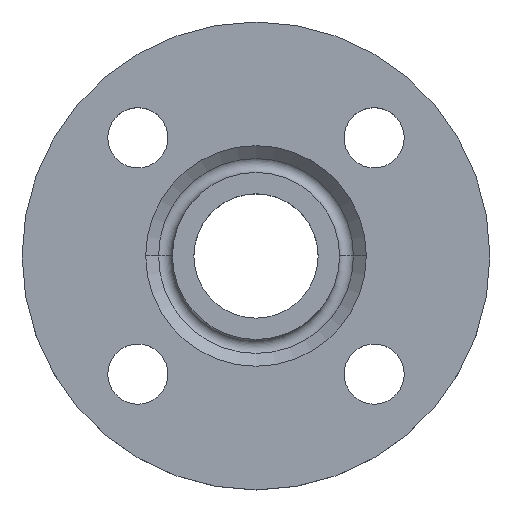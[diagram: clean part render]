
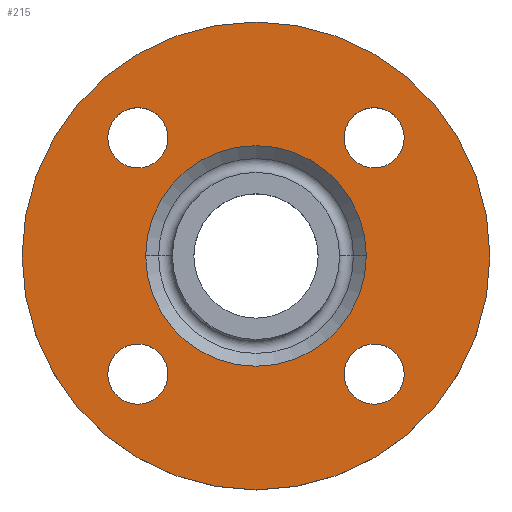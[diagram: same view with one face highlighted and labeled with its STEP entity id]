
A CAD part, top view. The second image highlights one B-rep face of the part: STEP entity #215.
In plain terms, the highlighted planar face has unit normal (0, 0, 1).
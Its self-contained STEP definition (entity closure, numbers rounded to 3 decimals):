
#11 = DIRECTION ( 'NONE',  ( 1., 0., 0. ) ) ;
#12 = CARTESIAN_POINT ( 'NONE',  ( 0., 0., -2. ) ) ;
#13 = DIRECTION ( 'NONE',  ( 0., 0., -1. ) ) ;
#23 = CARTESIAN_POINT ( 'NONE',  ( 70., 0., -2. ) ) ;
#32 = ORIENTED_EDGE ( 'NONE', *, *, #399, .T. ) ;
#34 = CARTESIAN_POINT ( 'NONE',  ( -35.355, 35.355, -2. ) ) ;
#37 = ORIENTED_EDGE ( 'NONE', *, *, #220, .T. ) ;
#47 = DIRECTION ( 'NONE',  ( 1., 0., 0. ) ) ;
#51 = VERTEX_POINT ( 'NONE', #314 ) ;
#63 = ORIENTED_EDGE ( 'NONE', *, *, #201, .F. ) ;
#68 = VERTEX_POINT ( 'NONE', #595 ) ;
#83 = EDGE_CURVE ( 'NONE', #200, #774, #95, .T. ) ;
#95 = CIRCLE ( 'NONE', #113, 9. ) ;
#101 = FACE_BOUND ( 'NONE', #674, .T. ) ;
#113 = AXIS2_PLACEMENT_3D ( 'NONE', #295, #571, #848 ) ;
#121 = CARTESIAN_POINT ( 'NONE',  ( 0., 0., -2. ) ) ;
#130 = AXIS2_PLACEMENT_3D ( 'NONE', #241, #516, #789 ) ;
#131 = CIRCLE ( 'NONE', #636, 70. ) ;
#135 = AXIS2_PLACEMENT_3D ( 'NONE', #172, #452, #724 ) ;
#172 = CARTESIAN_POINT ( 'NONE',  ( 0., 0., -2. ) ) ;
#179 = FACE_BOUND ( 'NONE', #630, .T. ) ;
#183 = EDGE_CURVE ( 'NONE', #729, #673, #845, .T. ) ;
#186 = DIRECTION ( 'NONE',  ( 0., 0., -1. ) ) ;
#197 = CARTESIAN_POINT ( 'NONE',  ( 35.355, -35.355, -2. ) ) ;
#200 = VERTEX_POINT ( 'NONE', #792 ) ;
#201 = EDGE_CURVE ( 'NONE', #423, #68, #827, .T. ) ;
#207 = CARTESIAN_POINT ( 'NONE',  ( -33., 0., -2. ) ) ;
#215 = ADVANCED_FACE ( 'NONE', ( #799, #179, #459, #730, #101, #393 ), #662, .T. ) ;
#220 = EDGE_CURVE ( 'NONE', #276, #51, #804, .T. ) ;
#231 = CIRCLE ( 'NONE', #741, 33. ) ;
#241 = CARTESIAN_POINT ( 'NONE',  ( 0., 0., -2. ) ) ;
#244 = CARTESIAN_POINT ( 'NONE',  ( 35.355, 35.355, -2. ) ) ;
#250 = CIRCLE ( 'NONE', #759, 9. ) ;
#257 = AXIS2_PLACEMENT_3D ( 'NONE', #23, #325, #600 ) ;
#276 = VERTEX_POINT ( 'NONE', #337 ) ;
#288 = ORIENTED_EDGE ( 'NONE', *, *, #537, .T. ) ;
#295 = CARTESIAN_POINT ( 'NONE',  ( 35.355, -35.355, -2. ) ) ;
#296 = CARTESIAN_POINT ( 'NONE',  ( 26.355, 35.355, -2. ) ) ;
#305 = AXIS2_PLACEMENT_3D ( 'NONE', #415, #682, #47 ) ;
#313 = DIRECTION ( 'NONE',  ( 0., 0., -1. ) ) ;
#314 = CARTESIAN_POINT ( 'NONE',  ( -26.355, 35.355, -2. ) ) ;
#315 = DIRECTION ( 'NONE',  ( 1., 0., 0. ) ) ;
#319 = CARTESIAN_POINT ( 'NONE',  ( -26.355, -35.355, -2. ) ) ;
#325 = DIRECTION ( 'NONE',  ( 0., 0., 1. ) ) ;
#330 = VERTEX_POINT ( 'NONE', #207 ) ;
#332 = DIRECTION ( 'NONE',  ( 0., 0., -1. ) ) ;
#337 = CARTESIAN_POINT ( 'NONE',  ( -44.355, 35.355, -2. ) ) ;
#341 = EDGE_LOOP ( 'NONE', ( #63, #925 ) ) ;
#351 = ORIENTED_EDGE ( 'NONE', *, *, #183, .T. ) ;
#363 = AXIS2_PLACEMENT_3D ( 'NONE', #653, #13, #315 ) ;
#376 = CARTESIAN_POINT ( 'NONE',  ( -44.355, -35.355, -2. ) ) ;
#382 = CARTESIAN_POINT ( 'NONE',  ( -35.355, -35.355, -2. ) ) ;
#393 = FACE_OUTER_BOUND ( 'NONE', #341, .T. ) ;
#399 = EDGE_CURVE ( 'NONE', #330, #679, #522, .T. ) ;
#401 = AXIS2_PLACEMENT_3D ( 'NONE', #34, #332, #608 ) ;
#410 = DIRECTION ( 'NONE',  ( 0., 0., -1. ) ) ;
#415 = CARTESIAN_POINT ( 'NONE',  ( 35.355, 35.355, -2. ) ) ;
#419 = EDGE_CURVE ( 'NONE', #673, #729, #757, .T. ) ;
#423 = VERTEX_POINT ( 'NONE', #456 ) ;
#452 = DIRECTION ( 'NONE',  ( 0., 0., -1. ) ) ;
#456 = CARTESIAN_POINT ( 'NONE',  ( 70., 0., -2. ) ) ;
#459 = FACE_BOUND ( 'NONE', #555, .T. ) ;
#465 = DIRECTION ( 'NONE',  ( 1., 0., 0. ) ) ;
#475 = DIRECTION ( 'NONE',  ( 0., 0., -1. ) ) ;
#491 = EDGE_CURVE ( 'NONE', #774, #200, #507, .T. ) ;
#498 = EDGE_CURVE ( 'NONE', #679, #330, #231, .T. ) ;
#507 = CIRCLE ( 'NONE', #626, 9. ) ;
#516 = DIRECTION ( 'NONE',  ( 0., 0., -1. ) ) ;
#519 = DIRECTION ( 'NONE',  ( 0., 0., -1. ) ) ;
#522 = CIRCLE ( 'NONE', #130, 33. ) ;
#524 = ORIENTED_EDGE ( 'NONE', *, *, #491, .T. ) ;
#537 = EDGE_CURVE ( 'NONE', #610, #906, #696, .T. ) ;
#551 = EDGE_LOOP ( 'NONE', ( #749, #288 ) ) ;
#555 = EDGE_LOOP ( 'NONE', ( #844, #37 ) ) ;
#571 = DIRECTION ( 'NONE',  ( 0., 0., -1. ) ) ;
#588 = DIRECTION ( 'NONE',  ( -1., 0., 0. ) ) ;
#595 = CARTESIAN_POINT ( 'NONE',  ( -70., 0., -2. ) ) ;
#600 = DIRECTION ( 'NONE',  ( 1., 0., 0. ) ) ;
#602 = CARTESIAN_POINT ( 'NONE',  ( 44.355, 35.355, -2. ) ) ;
#608 = DIRECTION ( 'NONE',  ( 1., 0., 0. ) ) ;
#610 = VERTEX_POINT ( 'NONE', #296 ) ;
#626 = AXIS2_PLACEMENT_3D ( 'NONE', #197, #475, #747 ) ;
#630 = EDGE_LOOP ( 'NONE', ( #351, #847 ) ) ;
#636 = AXIS2_PLACEMENT_3D ( 'NONE', #12, #313, #588 ) ;
#646 = CARTESIAN_POINT ( 'NONE',  ( 33., 0., -2. ) ) ;
#650 = DIRECTION ( 'NONE',  ( 0., 0., -1. ) ) ;
#653 = CARTESIAN_POINT ( 'NONE',  ( -35.355, -35.355, -2. ) ) ;
#662 = PLANE ( 'NONE',  #257 ) ;
#666 = ORIENTED_EDGE ( 'NONE', *, *, #498, .T. ) ;
#668 = CIRCLE ( 'NONE', #401, 9. ) ;
#673 = VERTEX_POINT ( 'NONE', #376 ) ;
#674 = EDGE_LOOP ( 'NONE', ( #666, #32 ) ) ;
#678 = DIRECTION ( 'NONE',  ( -1., 0., 0. ) ) ;
#679 = VERTEX_POINT ( 'NONE', #646 ) ;
#682 = DIRECTION ( 'NONE',  ( 0., 0., -1. ) ) ;
#696 = CIRCLE ( 'NONE', #305, 9. ) ;
#700 = EDGE_CURVE ( 'NONE', #68, #423, #131, .T. ) ;
#707 = EDGE_CURVE ( 'NONE', #906, #610, #250, .T. ) ;
#710 = ORIENTED_EDGE ( 'NONE', *, *, #83, .T. ) ;
#724 = DIRECTION ( 'NONE',  ( -1., 0., 0. ) ) ;
#729 = VERTEX_POINT ( 'NONE', #319 ) ;
#730 = FACE_BOUND ( 'NONE', #551, .T. ) ;
#741 = AXIS2_PLACEMENT_3D ( 'NONE', #121, #410, #678 ) ;
#747 = DIRECTION ( 'NONE',  ( 1., 0., 0. ) ) ;
#749 = ORIENTED_EDGE ( 'NONE', *, *, #707, .T. ) ;
#757 = CIRCLE ( 'NONE', #363, 9. ) ;
#759 = AXIS2_PLACEMENT_3D ( 'NONE', #244, #519, #793 ) ;
#763 = EDGE_LOOP ( 'NONE', ( #710, #524 ) ) ;
#771 = EDGE_CURVE ( 'NONE', #51, #276, #668, .T. ) ;
#774 = VERTEX_POINT ( 'NONE', #884 ) ;
#789 = DIRECTION ( 'NONE',  ( -1., 0., 0. ) ) ;
#792 = CARTESIAN_POINT ( 'NONE',  ( 44.355, -35.355, -2. ) ) ;
#793 = DIRECTION ( 'NONE',  ( 1., 0., 0. ) ) ;
#799 = FACE_BOUND ( 'NONE', #763, .T. ) ;
#802 = AXIS2_PLACEMENT_3D ( 'NONE', #807, #186, #465 ) ;
#804 = CIRCLE ( 'NONE', #802, 9. ) ;
#807 = CARTESIAN_POINT ( 'NONE',  ( -35.355, 35.355, -2. ) ) ;
#827 = CIRCLE ( 'NONE', #135, 70. ) ;
#839 = AXIS2_PLACEMENT_3D ( 'NONE', #382, #650, #11 ) ;
#844 = ORIENTED_EDGE ( 'NONE', *, *, #771, .T. ) ;
#845 = CIRCLE ( 'NONE', #839, 9. ) ;
#847 = ORIENTED_EDGE ( 'NONE', *, *, #419, .T. ) ;
#848 = DIRECTION ( 'NONE',  ( 1., 0., 0. ) ) ;
#884 = CARTESIAN_POINT ( 'NONE',  ( 26.355, -35.355, -2. ) ) ;
#906 = VERTEX_POINT ( 'NONE', #602 ) ;
#925 = ORIENTED_EDGE ( 'NONE', *, *, #700, .F. ) ;
